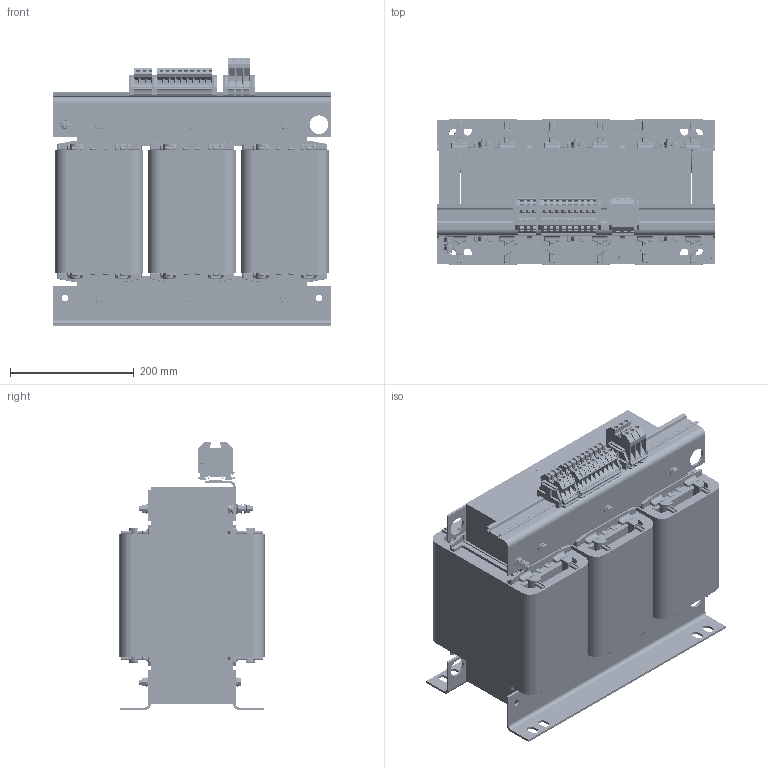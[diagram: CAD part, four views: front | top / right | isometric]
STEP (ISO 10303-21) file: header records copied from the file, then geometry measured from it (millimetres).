
FILE_DESCRIPTION((''),'2;1');
FILE_NAME('C:\Users\fp1\CAD-Daten\DTZ\DTZ25 400 690 230.stp','2014-07-02T09:25:35',('FP1'),(''),'Autodesk Inventor 2013','Autodesk Inventor 2013','');
FILE_SCHEMA(('AUTOMOTIVE_DESIGN { 1 0 10303 214 1 1 1 1 }'));
Length unit declared in the file: millimetre
Products named in the file (1): Bauteil60
Bounding box: 450 x 234.6 x 432.65 mm (x, y, z)
Volume: 26134279.9 mm3; surface area: 2694321.9 mm2
Topology: 4 solids, 4 shells, 13266 faces, 38090 edges, 24808 vertices
Faces by surface type: plane 10138, cylinder 2411, bspline 332, sphere 168, torus 146, cone 71
Full cylindrical faces by diameter (mm): 6.32 x24, 6.8 x6, 8 x9, 8.3 x2, 8.4 x2, 11 x3, 11.63 x7, 14 x12, 16 x14, 30 x4
Entity records: 439046 total; most frequent: CARTESIAN_POINT 95203, ORIENTED_EDGE 75500, DIRECTION 67024, EDGE_CURVE 37750, VECTOR 29506, LINE 29506, VERTEX_POINT 24688, AXIS2_PLACEMENT_3D 18759
